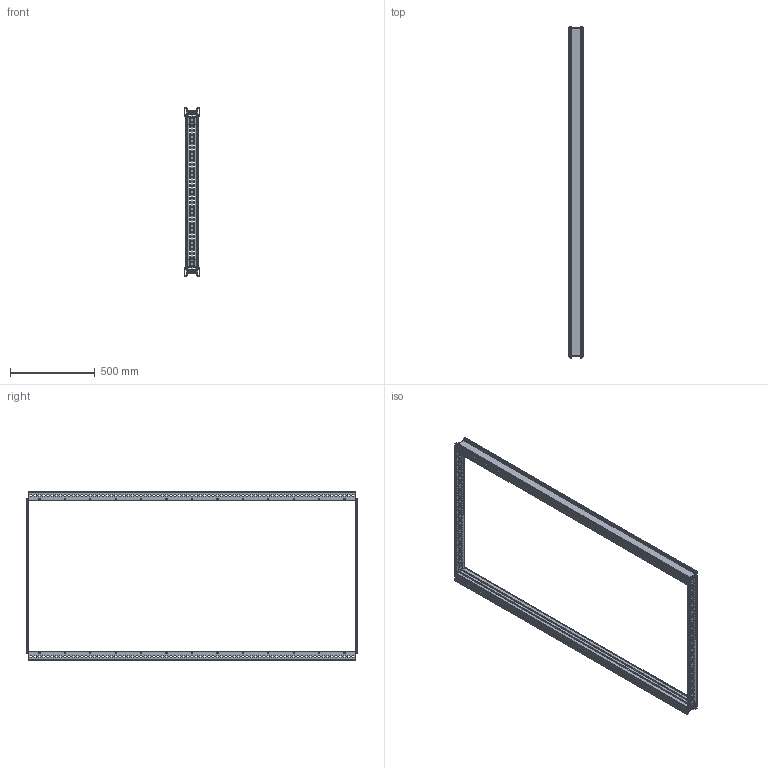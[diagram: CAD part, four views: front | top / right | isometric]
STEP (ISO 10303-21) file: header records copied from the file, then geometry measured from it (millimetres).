
FILE_DESCRIPTION(('STEP AP203'), '1');
FILE_NAME('Ðàçäåëèòåëüíàÿ ñòîéêà øèííîãî îòñåêà 2000õ1000 ìì OptiBox M 420048 ÊÝÀÇ', '', ('UNSPECIFIED'), ('UNSPECIFIED'), 'C3D Converter', 'C3D Toolkit', '');
FILE_SCHEMA(('CONFIG_CONTROL_DESIGN'));
Length unit declared in the file: millimetre
Bounding box: 88 x 1957.6 x 992 mm (x, y, z)
Volume: 2675698.3 mm3; surface area: 2805544.6 mm2
Topology: 6 solids, 6 shells, 4356 faces, 12744 edges, 8400 vertices
Faces by surface type: plane 3324, cylinder 1032
Full cylindrical faces by diameter (mm): 4.6 x876, 7.3 x84
Entity records: 179962 total; most frequent: CARTESIAN_POINT 24541, ORIENTED_EDGE 23568, DIRECTION 22562, EDGE_CURVE 11784, LINE 9720, VECTOR 9720, EDGE_LOOP 8764, VERTEX_POINT 8400
